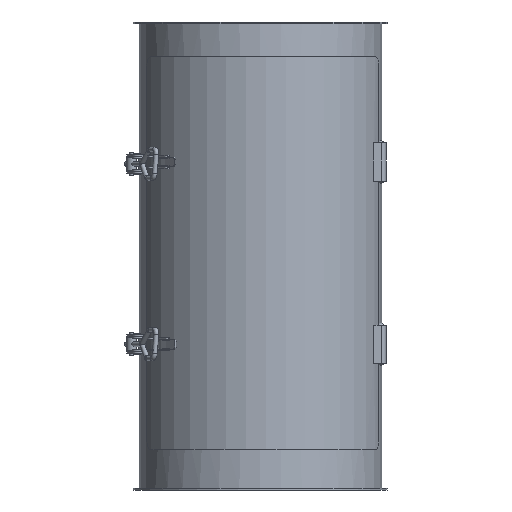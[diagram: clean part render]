
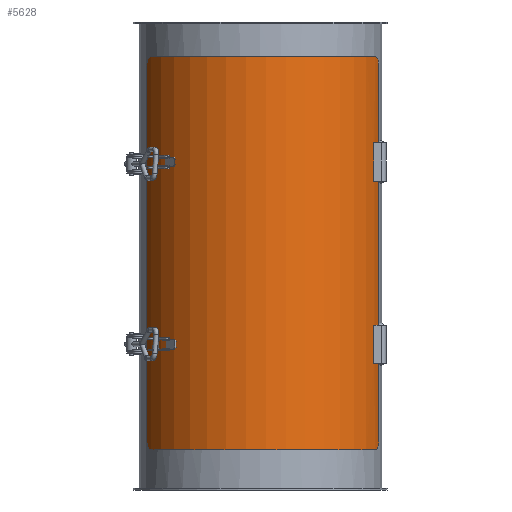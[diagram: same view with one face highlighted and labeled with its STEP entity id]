
A CAD part, front view. The second image highlights one B-rep face of the part: STEP entity #5628.
In plain terms, the highlighted cylindrical face has radius 128.5 mm (diameter 257 mm), a partial arc.
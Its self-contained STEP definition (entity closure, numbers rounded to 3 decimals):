
#5414=CARTESIAN_POINT('',(55.26,2.525,227.523));
#5415=VERTEX_POINT('',#5414);
#5422=CARTESIAN_POINT('',(62.718,12.525,220.85));
#5423=VERTEX_POINT('',#5422);
#5424=CARTESIAN_POINT('',(55.26,2.525,227.523));
#5425=CARTESIAN_POINT('',(55.26,3.78,227.523));
#5426=CARTESIAN_POINT('',(55.454,5.12,227.364));
#5427=CARTESIAN_POINT('',(56.237,7.584,226.709));
#5428=CARTESIAN_POINT('',(56.825,8.708,226.212));
#5429=CARTESIAN_POINT('',(58.168,10.485,225.049));
#5430=CARTESIAN_POINT('',(59.013,11.255,224.304));
#5431=CARTESIAN_POINT('',(60.837,12.275,222.642));
#5432=CARTESIAN_POINT('',(61.815,12.525,221.724));
#5433=CARTESIAN_POINT('',(62.718,12.525,220.85));
#5434=B_SPLINE_CURVE_WITH_KNOTS('',3,(#5424,#5425,#5426,#5427,#5428,#5429,#5430,#5431,#5432,#5433),.UNSPECIFIED.,.F.,.U.,(4,2,2,2,4),(3.019,3.396,3.773,4.15,4.527),.UNSPECIFIED.);
#5435=EDGE_CURVE('',#5415,#5423,#5434,.T.);
#5452=CARTESIAN_POINT('',(-16.634,12.525,0.39));
#5453=VERTEX_POINT('',#5452);
#5454=CARTESIAN_POINT('',(-26.634,12.525,128.5));
#5455=DIRECTION('',(0.0,-1.0,0.0));
#5456=DIRECTION('',(0.0,0.0,-1.0));
#5457=AXIS2_PLACEMENT_3D('',#5454,#5455,#5456);
#5458=CIRCLE('',#5457,128.5);
#5459=EDGE_CURVE('',#5453,#5423,#5458,.T.);
#5479=CARTESIAN_POINT('',(-26.634,-397.475,128.5));
#5480=DIRECTION('',(0.,-1.0,0.0));
#5481=DIRECTION('',(0.637,0.0,0.771));
#5482=AXIS2_PLACEMENT_3D('',#5479,#5480,#5481);
#5483=CYLINDRICAL_SURFACE('',#5482,128.5);
#5484=ORIENTED_EDGE('',*,*,#5435,.F.);
#5485=CARTESIAN_POINT('',(55.26,-387.475,227.523));
#5486=VERTEX_POINT('',#5485);
#5487=CARTESIAN_POINT('',(55.26,2.525,227.523));
#5488=DIRECTION('',(0.0,-1.0,0.0));
#5489=VECTOR('',#5488,390.);
#5490=LINE('',#5487,#5489);
#5491=EDGE_CURVE('',#5415,#5486,#5490,.T.);
#5492=ORIENTED_EDGE('',*,*,#5491,.T.);
#5493=CARTESIAN_POINT('',(62.718,-397.475,220.85));
#5494=VERTEX_POINT('',#5493);
#5495=CARTESIAN_POINT('',(62.718,-397.475,220.85));
#5496=CARTESIAN_POINT('',(61.815,-397.475,221.724));
#5497=CARTESIAN_POINT('',(60.837,-397.225,222.642));
#5498=CARTESIAN_POINT('',(59.013,-396.205,224.304));
#5499=CARTESIAN_POINT('',(58.168,-395.435,225.049));
#5500=CARTESIAN_POINT('',(56.825,-393.659,226.212));
#5501=CARTESIAN_POINT('',(56.237,-392.534,226.709));
#5502=CARTESIAN_POINT('',(55.454,-390.07,227.364));
#5503=CARTESIAN_POINT('',(55.26,-388.731,227.523));
#5504=CARTESIAN_POINT('',(55.26,-387.475,227.523));
#5505=B_SPLINE_CURVE_WITH_KNOTS('',3,(#5495,#5496,#5497,#5498,#5499,#5500,#5501,#5502,#5503,#5504),.UNSPECIFIED.,.F.,.U.,(4,2,2,2,4),(1.512,1.889,2.266,2.643,3.019),.UNSPECIFIED.);
#5506=EDGE_CURVE('',#5494,#5486,#5505,.T.);
#5507=ORIENTED_EDGE('',*,*,#5506,.F.);
#5508=CARTESIAN_POINT('',(-16.634,-397.475,0.39));
#5509=VERTEX_POINT('',#5508);
#5510=CARTESIAN_POINT('',(-26.634,-397.475,128.5));
#5511=DIRECTION('',(0.0,1.,0.0));
#5512=DIRECTION('',(0.637,0.0,0.771));
#5513=AXIS2_PLACEMENT_3D('',#5510,#5511,#5512);
#5514=CIRCLE('',#5513,128.5);
#5515=EDGE_CURVE('',#5494,#5509,#5514,.T.);
#5516=ORIENTED_EDGE('',*,*,#5515,.T.);
#5517=CARTESIAN_POINT('',(-26.634,-387.475,0.0));
#5518=VERTEX_POINT('',#5517);
#5519=CARTESIAN_POINT('',(-26.634,-387.475,0.));
#5520=CARTESIAN_POINT('',(-26.634,-388.731,0.));
#5521=CARTESIAN_POINT('',(-26.383,-390.07,-0.001));
#5522=CARTESIAN_POINT('',(-25.362,-392.534,0.005));
#5523=CARTESIAN_POINT('',(-24.593,-393.659,0.013));
#5524=CARTESIAN_POINT('',(-22.816,-395.435,0.054));
#5525=CARTESIAN_POINT('',(-21.69,-396.205,0.089));
#5526=CARTESIAN_POINT('',(-19.226,-397.225,0.208));
#5527=CARTESIAN_POINT('',(-17.887,-397.475,0.292));
#5528=CARTESIAN_POINT('',(-16.634,-397.475,0.39));
#5529=B_SPLINE_CURVE_WITH_KNOTS('',3,(#5519,#5520,#5521,#5522,#5523,#5524,#5525,#5526,#5527,#5528),.UNSPECIFIED.,.F.,.U.,(4,2,2,2,4),(6.039,6.416,6.792,7.169,7.547),.UNSPECIFIED.);
#5530=EDGE_CURVE('',#5518,#5509,#5529,.T.);
#5531=ORIENTED_EDGE('',*,*,#5530,.F.);
#5532=CARTESIAN_POINT('',(-26.634,2.525,0.0));
#5533=VERTEX_POINT('',#5532);
#5534=CARTESIAN_POINT('',(-26.634,-387.475,0.0));
#5535=DIRECTION('',(0.0,1.0,0.0));
#5536=VECTOR('',#5535,390.);
#5537=LINE('',#5534,#5536);
#5538=EDGE_CURVE('',#5518,#5533,#5537,.T.);
#5539=ORIENTED_EDGE('',*,*,#5538,.T.);
#5540=CARTESIAN_POINT('',(-16.634,12.525,0.39));
#5541=CARTESIAN_POINT('',(-17.887,12.525,0.292));
#5542=CARTESIAN_POINT('',(-19.226,12.275,0.208));
#5543=CARTESIAN_POINT('',(-21.69,11.255,0.089));
#5544=CARTESIAN_POINT('',(-22.816,10.485,0.054));
#5545=CARTESIAN_POINT('',(-24.593,8.708,0.013));
#5546=CARTESIAN_POINT('',(-25.362,7.584,0.005));
#5547=CARTESIAN_POINT('',(-26.383,5.12,-0.001));
#5548=CARTESIAN_POINT('',(-26.634,3.78,0.));
#5549=CARTESIAN_POINT('',(-26.634,2.525,0.));
#5550=B_SPLINE_CURVE_WITH_KNOTS('',3,(#5540,#5541,#5542,#5543,#5544,#5545,#5546,#5547,#5548,#5549),.UNSPECIFIED.,.F.,.U.,(4,2,2,2,4),(4.531,4.908,5.285,5.662,6.039),.UNSPECIFIED.);
#5551=EDGE_CURVE('',#5453,#5533,#5550,.T.);
#5552=ORIENTED_EDGE('',*,*,#5551,.F.);
#5553=ORIENTED_EDGE('',*,*,#5459,.T.);
#5554=EDGE_LOOP('',(#5484,#5492,#5507,#5516,#5531,#5539,#5552,#5553));
#5555=FACE_OUTER_BOUND('',#5554,.T.);
#5556=CARTESIAN_POINT('',(66.021,-77.475,217.535));
#5557=VERTEX_POINT('',#5556);
#5558=CARTESIAN_POINT('',(66.021,-117.475,217.535));
#5559=VERTEX_POINT('',#5558);
#5560=CARTESIAN_POINT('',(66.021,-77.475,217.535));
#5561=DIRECTION('',(0.0,-1.0,0.0));
#5562=VECTOR('',#5561,40.);
#5563=LINE('',#5560,#5562);
#5564=EDGE_CURVE('',#5557,#5559,#5563,.T.);
#5565=ORIENTED_EDGE('',*,*,#5564,.T.);
#5566=CARTESIAN_POINT('',(62.718,-117.475,220.85));
#5567=VERTEX_POINT('',#5566);
#5568=CARTESIAN_POINT('',(-26.634,-117.475,128.5));
#5569=DIRECTION('',(0.0,-1.,0.0));
#5570=DIRECTION('',(0.637,0.0,0.771));
#5571=AXIS2_PLACEMENT_3D('',#5568,#5569,#5570);
#5572=CIRCLE('',#5571,128.5);
#5573=EDGE_CURVE('',#5559,#5567,#5572,.T.);
#5574=ORIENTED_EDGE('',*,*,#5573,.T.);
#5575=CARTESIAN_POINT('',(62.718,-77.475,220.85));
#5576=VERTEX_POINT('',#5575);
#5577=CARTESIAN_POINT('',(62.718,-117.475,220.85));
#5578=DIRECTION('',(0.0,1.0,0.0));
#5579=VECTOR('',#5578,40.);
#5580=LINE('',#5577,#5579);
#5581=EDGE_CURVE('',#5567,#5576,#5580,.T.);
#5582=ORIENTED_EDGE('',*,*,#5581,.T.);
#5583=CARTESIAN_POINT('',(-26.634,-77.475,128.5));
#5584=DIRECTION('',(0.0,1.,0.0));
#5585=DIRECTION('',(0.637,0.0,0.771));
#5586=AXIS2_PLACEMENT_3D('',#5583,#5584,#5585);
#5587=CIRCLE('',#5586,128.5);
#5588=EDGE_CURVE('',#5576,#5557,#5587,.T.);
#5589=ORIENTED_EDGE('',*,*,#5588,.T.);
#5590=EDGE_LOOP('',(#5565,#5574,#5582,#5589));
#5591=FACE_BOUND('',#5590,.T.);
#5592=CARTESIAN_POINT('',(66.021,-267.475,217.535));
#5593=VERTEX_POINT('',#5592);
#5594=CARTESIAN_POINT('',(66.021,-307.475,217.535));
#5595=VERTEX_POINT('',#5594);
#5596=CARTESIAN_POINT('',(66.021,-267.475,217.535));
#5597=DIRECTION('',(0.0,-1.0,0.0));
#5598=VECTOR('',#5597,40.);
#5599=LINE('',#5596,#5598);
#5600=EDGE_CURVE('',#5593,#5595,#5599,.T.);
#5601=ORIENTED_EDGE('',*,*,#5600,.T.);
#5602=CARTESIAN_POINT('',(62.718,-307.475,220.85));
#5603=VERTEX_POINT('',#5602);
#5604=CARTESIAN_POINT('',(-26.634,-307.475,128.5));
#5605=DIRECTION('',(0.0,-1.,0.0));
#5606=DIRECTION('',(0.637,0.0,0.771));
#5607=AXIS2_PLACEMENT_3D('',#5604,#5605,#5606);
#5608=CIRCLE('',#5607,128.5);
#5609=EDGE_CURVE('',#5595,#5603,#5608,.T.);
#5610=ORIENTED_EDGE('',*,*,#5609,.T.);
#5611=CARTESIAN_POINT('',(62.718,-267.475,220.85));
#5612=VERTEX_POINT('',#5611);
#5613=CARTESIAN_POINT('',(62.718,-307.475,220.85));
#5614=DIRECTION('',(0.0,1.0,0.0));
#5615=VECTOR('',#5614,40.);
#5616=LINE('',#5613,#5615);
#5617=EDGE_CURVE('',#5603,#5612,#5616,.T.);
#5618=ORIENTED_EDGE('',*,*,#5617,.T.);
#5619=CARTESIAN_POINT('',(-26.634,-267.475,128.5));
#5620=DIRECTION('',(0.0,1.,0.0));
#5621=DIRECTION('',(0.637,0.0,0.771));
#5622=AXIS2_PLACEMENT_3D('',#5619,#5620,#5621);
#5623=CIRCLE('',#5622,128.5);
#5624=EDGE_CURVE('',#5612,#5593,#5623,.T.);
#5625=ORIENTED_EDGE('',*,*,#5624,.T.);
#5626=EDGE_LOOP('',(#5601,#5610,#5618,#5625));
#5627=FACE_BOUND('',#5626,.T.);
#5628=ADVANCED_FACE('',(#5555,#5591,#5627),#5483,.T.);
